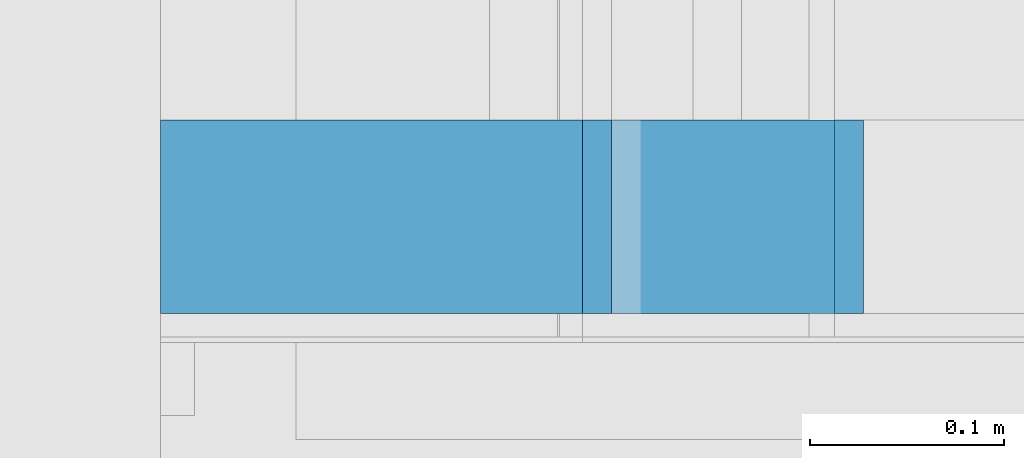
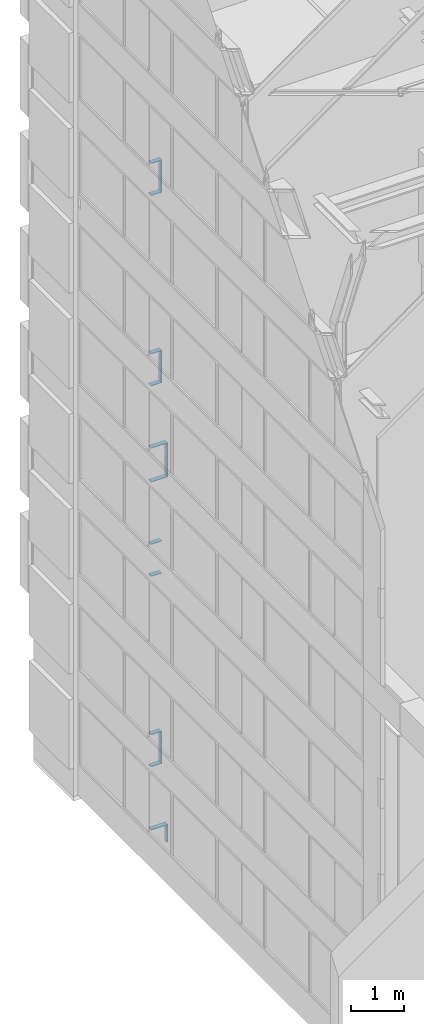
# One storey, part 206 of 583: 16 building element parts, 16 elements without a shape of their own.
"""IFC2X3 building model written with IfcOpenShell, lengths in metres."""

from ifc_helpers import new_model, entity, si_unit, converted_unit, derived_unit, money_unit, direction, frame, origin_with_axes, place, context, subcontext, project, spatial, polyline, outline, extrude, material, type_object, element, aggregate, save


model = new_model("IFC2X3")

# Units and contexts
model_context = context("Model", 3, precision=1e-05, world=origin_with_axes(), true_north=direction((0.0, 1.0)))
body_context = subcontext(model_context, "Body", "Model", "MODEL_VIEW", scale=1.0)
ifc_project = project(units=[si_unit("LENGTHUNIT", "METRE"), si_unit("AREAUNIT", "SQUARE_METRE"), si_unit("VOLUMEUNIT", "CUBIC_METRE"), si_unit("ABSORBEDDOSEUNIT", "GRAY"), si_unit("AMOUNTOFSUBSTANCEUNIT", "MOLE"), si_unit("DOSEEQUIVALENTUNIT", "SIEVERT"), si_unit("ELECTRICCAPACITANCEUNIT", "FARAD"), si_unit("ELECTRICCHARGEUNIT", "COULOMB"), si_unit("ELECTRICCONDUCTANCEUNIT", "SIEMENS"), si_unit("ELECTRICCURRENTUNIT", "AMPERE"), si_unit("ELECTRICRESISTANCEUNIT", "OHM"), si_unit("ELECTRICVOLTAGEUNIT", "VOLT"), si_unit("ENERGYUNIT", "JOULE"), si_unit("FORCEUNIT", "NEWTON"), si_unit("FREQUENCYUNIT", "HERTZ"), si_unit("ILLUMINANCEUNIT", "LUX"), si_unit("INDUCTANCEUNIT", "HENRY"), si_unit("LUMINOUSFLUXUNIT", "LUMEN"), si_unit("LUMINOUSINTENSITYUNIT", "CANDELA"), si_unit("MAGNETICFLUXDENSITYUNIT", "TESLA"), si_unit("MAGNETICFLUXUNIT", "WEBER"), si_unit("MASSUNIT", "GRAM"), converted_unit("PLANEANGLEUNIT", "degree", entity("IfcReal", 0.0174532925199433), si_unit("PLANEANGLEUNIT", "RADIAN"), dimensions=[0, 0, 0, 0, 0, 0, 0]), si_unit("POWERUNIT", "WATT"), si_unit("PRESSUREUNIT", "PASCAL"), si_unit("RADIOACTIVITYUNIT", "BECQUEREL"), si_unit("SOLIDANGLEUNIT", "STERADIAN"), si_unit("THERMODYNAMICTEMPERATUREUNIT", "KELVIN"), si_unit("TIMEUNIT", "SECOND"), derived_unit("ACCELERATIONUNIT", [(si_unit("LENGTHUNIT", "METRE"), 1), (si_unit("TIMEUNIT", "SECOND"), -2)]), derived_unit("ANGULARVELOCITYUNIT", [(converted_unit("PLANEANGLEUNIT", "degree", entity("IfcReal", 0.0174532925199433), si_unit("PLANEANGLEUNIT", "RADIAN"), dimensions=[0, 0, 0, 0, 0, 0, 0]), 1), (si_unit("TIMEUNIT", "SECOND"), -1)]), derived_unit("CURVATUREUNIT", [(converted_unit("PLANEANGLEUNIT", "degree", entity("IfcReal", 0.0174532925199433), si_unit("PLANEANGLEUNIT", "RADIAN"), dimensions=[0, 0, 0, 0, 0, 0, 0]), 1), (si_unit("LENGTHUNIT", "METRE"), -1)]), derived_unit("DYNAMICVISCOSITYUNIT", [(si_unit("PRESSUREUNIT", "PASCAL"), 1), (si_unit("TIMEUNIT", "SECOND"), 1)]), derived_unit("HEATFLUXDENSITYUNIT", [(si_unit("POWERUNIT", "WATT"), 1), (si_unit("LENGTHUNIT", "METRE"), -2)]), derived_unit("HEATINGVALUEUNIT", [(si_unit("ENERGYUNIT", "JOULE"), 1), (si_unit("MASSUNIT", "GRAM"), -1)]), derived_unit("INTEGERCOUNTRATEUNIT", [(si_unit("TIMEUNIT", "SECOND"), -1)]), derived_unit("IONCONCENTRATIONUNIT", [(si_unit("MASSUNIT", "GRAM"), 1), (si_unit("VOLUMEUNIT", "CUBIC_METRE"), -1)]), derived_unit("ISOTHERMALMOISTURECAPACITYUNIT", [(si_unit("VOLUMEUNIT", "CUBIC_METRE"), 1), (si_unit("MASSUNIT", "GRAM"), -1)]), derived_unit("KINEMATICVISCOSITYUNIT", [(si_unit("AREAUNIT", "SQUARE_METRE"), 1), (si_unit("TIMEUNIT", "SECOND"), -1)]), derived_unit("LINEARFORCEUNIT", [(si_unit("FORCEUNIT", "NEWTON"), 1), (si_unit("LENGTHUNIT", "METRE"), -1)]), derived_unit("LINEARMOMENTUNIT", [(si_unit("FORCEUNIT", "NEWTON"), 1), (si_unit("LENGTHUNIT", "METRE"), -1)]), derived_unit("LINEARSTIFFNESSUNIT", [(si_unit("FORCEUNIT", "NEWTON"), 1), (si_unit("LENGTHUNIT", "METRE"), -1)]), derived_unit("LINEARVELOCITYUNIT", [(si_unit("LENGTHUNIT", "METRE"), 1), (si_unit("TIMEUNIT", "SECOND"), -1)]), derived_unit("LUMINOUSINTENSITYDISTRIBUTIONUNIT", [(si_unit("LUMINOUSINTENSITYUNIT", "CANDELA"), 1), (si_unit("LUMINOUSFLUXUNIT", "LUMEN"), -1)]), derived_unit("MASSDENSITYUNIT", [(si_unit("MASSUNIT", "GRAM"), 1), (si_unit("VOLUMEUNIT", "CUBIC_METRE"), -1)]), derived_unit("MASSFLOWRATEUNIT", [(si_unit("MASSUNIT", "GRAM"), 1), (si_unit("TIMEUNIT", "SECOND"), -1)]), derived_unit("MASSPERLENGTHUNIT", [(si_unit("MASSUNIT", "GRAM"), 1), (si_unit("LENGTHUNIT", "METRE"), -1)]), derived_unit("MODULUSOFELASTICITYUNIT", [(si_unit("FORCEUNIT", "NEWTON"), 1), (si_unit("AREAUNIT", "SQUARE_METRE"), -1)]), derived_unit("MODULUSOFLINEARSUBGRADEREACTIONUNIT", [(si_unit("FORCEUNIT", "NEWTON"), 1), (si_unit("LENGTHUNIT", "METRE"), -2)]), derived_unit("MODULUSOFROTATIONALSUBGRADEREACTIONUNIT", [(si_unit("FORCEUNIT", "NEWTON"), 1), (si_unit("LENGTHUNIT", "METRE"), 1)]), derived_unit("MODULUSOFSUBGRADEREACTIONUNIT", [(si_unit("FORCEUNIT", "NEWTON"), 1), (si_unit("VOLUMEUNIT", "CUBIC_METRE"), -1)]), derived_unit("MOISTUREDIFFUSIVITYUNIT", [(si_unit("VOLUMEUNIT", "CUBIC_METRE"), 1), (si_unit("TIMEUNIT", "SECOND"), -1)]), derived_unit("MOLECULARWEIGHTUNIT", [(si_unit("MASSUNIT", "GRAM"), 1), (si_unit("AMOUNTOFSUBSTANCEUNIT", "MOLE"), -1)]), derived_unit("PLANARFORCEUNIT", [(si_unit("FORCEUNIT", "NEWTON"), 1), (si_unit("LENGTHUNIT", "METRE"), -2)]), derived_unit("ROTATIONALFREQUENCYUNIT", [(si_unit("TIMEUNIT", "SECOND"), -1)]), derived_unit("ROTATIONALMASSUNIT", [(si_unit("MASSUNIT", "GRAM"), 1), (si_unit("LENGTHUNIT", "METRE"), 2)]), derived_unit("ROTATIONALSTIFFNESSUNIT", [(si_unit("FORCEUNIT", "NEWTON"), 1), (si_unit("LENGTHUNIT", "METRE"), 1), (converted_unit("PLANEANGLEUNIT", "degree", entity("IfcReal", 0.0174532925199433), si_unit("PLANEANGLEUNIT", "RADIAN"), dimensions=[0, 0, 0, 0, 0, 0, 0]), -1)]), derived_unit("SECTIONAREAINTEGRALUNIT", [(si_unit("LENGTHUNIT", "METRE"), 5)]), derived_unit("SECTIONMODULUSUNIT", [(si_unit("LENGTHUNIT", "METRE"), 3)]), derived_unit("SHEARMODULUSUNIT", [(si_unit("FORCEUNIT", "NEWTON"), 1), (si_unit("AREAUNIT", "SQUARE_METRE"), -1)]), derived_unit("SOUNDPOWERUNIT", [(si_unit("ENERGYUNIT", "JOULE"), 1), (si_unit("TIMEUNIT", "SECOND"), -1)]), derived_unit("SPECIFICHEATCAPACITYUNIT", [(si_unit("FORCEUNIT", "NEWTON"), 1), (si_unit("MASSUNIT", "GRAM"), -1), (si_unit("THERMODYNAMICTEMPERATUREUNIT", "KELVIN"), -1)]), derived_unit("TEMPERATUREGRADIENTUNIT", [(si_unit("THERMODYNAMICTEMPERATUREUNIT", "KELVIN"), 1), (si_unit("LENGTHUNIT", "METRE"), -1)]), derived_unit("THERMALADMITTANCEUNIT", [(si_unit("POWERUNIT", "WATT"), 1), (si_unit("AREAUNIT", "SQUARE_METRE"), -1), (si_unit("THERMODYNAMICTEMPERATUREUNIT", "KELVIN"), -1)]), derived_unit("THERMALCONDUCTANCEUNIT", [(si_unit("POWERUNIT", "WATT"), 1), (si_unit("LENGTHUNIT", "METRE"), -1), (si_unit("THERMODYNAMICTEMPERATUREUNIT", "KELVIN"), -1)]), derived_unit("THERMALEXPANSIONCOEFFICIENTUNIT", [(si_unit("THERMODYNAMICTEMPERATUREUNIT", "KELVIN"), -1)]), derived_unit("THERMALRESISTANCEUNIT", [(si_unit("AREAUNIT", "SQUARE_METRE"), 1), (si_unit("POWERUNIT", "WATT"), -1)]), derived_unit("THERMALTRANSMITTANCEUNIT", [(si_unit("POWERUNIT", "WATT"), 1), (si_unit("AREAUNIT", "SQUARE_METRE"), -1), (si_unit("THERMODYNAMICTEMPERATUREUNIT", "KELVIN"), -1)]), derived_unit("TORQUEUNIT", [(si_unit("FORCEUNIT", "NEWTON"), 1), (si_unit("LENGTHUNIT", "METRE"), 1)]), derived_unit("VAPORPERMEABILITYUNIT", [(si_unit("MASSUNIT", "GRAM"), 1), (si_unit("TIMEUNIT", "SECOND"), -1)]), derived_unit("VOLUMETRICFLOWRATEUNIT", [(si_unit("VOLUMEUNIT", "CUBIC_METRE"), 1), (si_unit("TIMEUNIT", "SECOND"), -1)]), derived_unit("WARPINGCONSTANTUNIT", [(si_unit("LENGTHUNIT", "METRE"), 6)]), derived_unit("WARPINGMOMENTUNIT", [(si_unit("FORCEUNIT", "NEWTON"), 1), (si_unit("LENGTHUNIT", "METRE"), 2)]), money_unit("GBP")], contexts=[model_context])

# Site, building, storey
site_placement = place(None, origin_with_axes())
site = spatial("IfcSite", under=ifc_project, at=site_placement, Name="Site", CompositionType="ELEMENT")
building_placement = place(site_placement, origin_with_axes())
building = spatial("IfcBuilding", under=site, at=building_placement, Name="Building01", CompositionType="ELEMENT")
storey_placement = place(building_placement, frame((0.0, 0.0, 20.78), z_axis=(0.0, 0.0, 1.0), x_axis=(1.0, 0.0, 0.0)))
storey = spatial("IfcBuildingStorey", under=building, at=storey_placement, Name="RL", CompositionType="ELEMENT", Elevation=20.78)

# Wall, building element part
wall_type = type_object("IfcWallType", Name="SHE_A-Walls_Type06d_ExternalWallInsulation_48mm", PredefinedType="NOTDEFINED")
wall_1_placement = place(storey_placement, frame((0.4, 12.13, -20.51), z_axis=(0.0, 1.0, 0.0), x_axis=(0.0, 0.0, 1.0)))
wall_1 = element("IfcWall", 1, at=wall_1_placement, inside=storey, type_object=wall_type, Name="6D", ObjectType="SHE_A-Walls_Type06d_ExternalWallInsulation_48mm")
ifc_material = material(Name="A_BSUK_Walls_Timber")
building_element_part_1_placement = place(wall_1_placement, origin_with_axes())
building_element_part_1 = element("IfcBuildingElementPart", 2, at=building_element_part_1_placement, material=ifc_material, Name="2", context=body_context, shape_type="SweptSolid", body=[
    extrude(outline(polyline([(0.47, 0.063), (0.063, 0.063), (0.048, 0.048), (0.455, 0.048), (0.47, 0.063)])), frame((0.0, 0.0, 0.015), z_axis=(0.0, 0.0, 1.0), x_axis=(1.0, 0.0, 0.0)), (0.0, 0.0, 1.0), 0.1),
])
aggregate(wall_1, [building_element_part_1])

wall_2_placement = place(storey_placement, frame((0.4, 12.13, -20.103), z_axis=(0.0, 1.0, 0.0), x_axis=(-1.0, 0.0, 0.0)))
wall_2 = element("IfcWall", 3, at=wall_2_placement, inside=storey, type_object=wall_type, Name="6D", ObjectType="SHE_A-Walls_Type06d_ExternalWallInsulation_48mm")
building_element_part_2_placement = place(wall_2_placement, origin_with_axes())
building_element_part_2 = element("IfcBuildingElementPart", 4, at=building_element_part_2_placement, material=ifc_material, Name="2", context=body_context, shape_type="SweptSolid", body=[
    extrude(outline(polyline([(-0.063, 0.063), (-0.048, 0.048), (0.3, 0.048), (0.3, 0.063), (-0.063, 0.063)])), frame((0.0, 0.0, 0.015), z_axis=(0.0, 0.0, 1.0), x_axis=(1.0, 0.0, 0.0)), (0.0, 0.0, 1.0), 0.1),
])
aggregate(wall_2, [building_element_part_2])

wall_3_placement = place(storey_placement, frame((0.1, 12.13, -18.537), z_axis=(0.0, 1.0, 0.0), x_axis=(1.0, 0.0, 0.0)))
wall_3 = element("IfcWall", 5, at=wall_3_placement, inside=storey, type_object=wall_type, Name="6D", ObjectType="SHE_A-Walls_Type06d_ExternalWallInsulation_48mm")
building_element_part_3_placement = place(wall_3_placement, origin_with_axes())
building_element_part_3 = element("IfcBuildingElementPart", 6, at=building_element_part_3_placement, material=ifc_material, Name="2", context=body_context, shape_type="SweptSolid", body=[
    extrude(outline(polyline([(0.233, 0.063), (0.0, 0.063), (0.0, 0.048), (0.218, 0.048), (0.233, 0.063)])), frame((0.0, 0.0, 0.015), z_axis=(0.0, 0.0, 1.0), x_axis=(1.0, 0.0, 0.0)), (0.0, 0.0, 1.0), 0.1),
])
aggregate(wall_3, [building_element_part_3])

wall_4_placement = place(storey_placement, frame((0.27, 12.13, -18.537), z_axis=(0.0, 1.0, 0.0), x_axis=(0.0, 0.0, 1.0)))
wall_4 = element("IfcWall", 7, at=wall_4_placement, inside=storey, type_object=wall_type, Name="6D", ObjectType="SHE_A-Walls_Type06d_ExternalWallInsulation_48mm")
building_element_part_4_placement = place(wall_4_placement, origin_with_axes())
building_element_part_4 = element("IfcBuildingElementPart", 8, at=building_element_part_4_placement, material=ifc_material, Name="2", context=body_context, shape_type="SweptSolid", body=[
    extrude(outline(polyline([(0.687, 0.063), (-0.063, 0.063), (-0.048, 0.048), (0.672, 0.048), (0.687, 0.063)])), frame((0.0, 0.0, 0.015), z_axis=(0.0, 0.0, 1.0), x_axis=(1.0, 0.0, 0.0)), (0.0, 0.0, 1.0), 0.1),
])
aggregate(wall_4, [building_element_part_4])

wall_5_placement = place(storey_placement, frame((0.27, 12.13, -17.913), z_axis=(0.0, 1.0, 0.0), x_axis=(-1.0, 0.0, 0.0)))
wall_5 = element("IfcWall", 9, at=wall_5_placement, inside=storey, type_object=wall_type, Name="6D", ObjectType="SHE_A-Walls_Type06d_ExternalWallInsulation_48mm")
building_element_part_5_placement = place(wall_5_placement, origin_with_axes())
building_element_part_5 = element("IfcBuildingElementPart", 10, at=building_element_part_5_placement, material=ifc_material, Name="2", context=body_context, shape_type="SweptSolid", body=[
    extrude(outline(polyline([(-0.063, 0.063), (-0.048, 0.048), (0.17, 0.048), (0.17, 0.063), (-0.063, 0.063)])), frame((0.0, 0.0, 0.015), z_axis=(0.0, 0.0, 1.0), x_axis=(1.0, 0.0, 0.0)), (0.0, 0.0, 1.0), 0.1),
])
aggregate(wall_5, [building_element_part_5])

wall_6_placement = place(storey_placement, frame((0.1, 12.13, -14.157), z_axis=(0.0, 1.0, 0.0), x_axis=(1.0, 0.0, 0.0)))
wall_6 = element("IfcWall", 11, at=wall_6_placement, inside=storey, type_object=wall_type, Name="6D", ObjectType="SHE_A-Walls_Type06d_ExternalWallInsulation_48mm")
building_element_part_6_placement = place(wall_6_placement, origin_with_axes())
building_element_part_6 = element("IfcBuildingElementPart", 12, at=building_element_part_6_placement, material=ifc_material, Name="2", context=body_context, shape_type="SweptSolid", body=[
    extrude(outline(polyline([(0.233, 0.063), (0.0, 0.063), (0.0, 0.048), (0.218, 0.048), (0.233, 0.063)])), frame((0.0, 0.0, 0.015), z_axis=(0.0, 0.0, 1.0), x_axis=(1.0, 0.0, 0.0)), (0.0, 0.0, 1.0), 0.1),
])
aggregate(wall_6, [building_element_part_6])

wall_7_placement = place(storey_placement, frame((0.27, 12.13, -13.533), z_axis=(0.0, 1.0, 0.0), x_axis=(-1.0, 0.0, 0.0)))
wall_7 = element("IfcWall", 13, at=wall_7_placement, inside=storey, type_object=wall_type, Name="6D", ObjectType="SHE_A-Walls_Type06d_ExternalWallInsulation_48mm")
building_element_part_7_placement = place(wall_7_placement, origin_with_axes())
building_element_part_7 = element("IfcBuildingElementPart", 14, at=building_element_part_7_placement, material=ifc_material, Name="2", context=body_context, shape_type="SweptSolid", body=[
    extrude(outline(polyline([(-0.063, 0.063), (-0.048, 0.048), (0.17, 0.048), (0.17, 0.063), (-0.063, 0.063)])), frame((0.0, 0.0, 0.015), z_axis=(0.0, 0.0, 1.0), x_axis=(1.0, 0.0, 0.0)), (0.0, 0.0, 1.0), 0.1),
])
aggregate(wall_7, [building_element_part_7])

wall_8_placement = place(storey_placement, frame((0.1, 12.13, -11.99), z_axis=(0.0, 1.0, 0.0), x_axis=(1.0, 0.0, 0.0)))
wall_8 = element("IfcWall", 15, at=wall_8_placement, inside=storey, type_object=wall_type, Name="6D", ObjectType="SHE_A-Walls_Type06d_ExternalWallInsulation_48mm")
building_element_part_8_placement = place(wall_8_placement, origin_with_axes())
building_element_part_8 = element("IfcBuildingElementPart", 16, at=building_element_part_8_placement, material=ifc_material, Name="2", context=body_context, shape_type="SweptSolid", body=[
    extrude(outline(polyline([(0.363, 0.063), (0.0, 0.063), (0.0, 0.048), (0.348, 0.048), (0.363, 0.063)])), frame((0.0, 0.0, 0.015), z_axis=(0.0, 0.0, 1.0), x_axis=(1.0, 0.0, 0.0)), (0.0, 0.0, 1.0), 0.1),
])
aggregate(wall_8, [building_element_part_8])

wall_9_placement = place(storey_placement, frame((0.4, 12.13, -11.99), z_axis=(0.0, 1.0, 0.0), x_axis=(0.0, 0.0, 1.0)))
wall_9 = element("IfcWall", 17, at=wall_9_placement, inside=storey, type_object=wall_type, Name="6D", ObjectType="SHE_A-Walls_Type06d_ExternalWallInsulation_48mm")
building_element_part_9_placement = place(wall_9_placement, origin_with_axes())
building_element_part_9 = element("IfcBuildingElementPart", 18, at=building_element_part_9_placement, material=ifc_material, Name="2", context=body_context, shape_type="SweptSolid", body=[
    extrude(outline(polyline([(0.733, 0.063), (-0.063, 0.063), (-0.048, 0.048), (0.718, 0.048), (0.733, 0.063)])), frame((0.0, 0.0, 0.015), z_axis=(0.0, 0.0, 1.0), x_axis=(1.0, 0.0, 0.0)), (0.0, 0.0, 1.0), 0.1),
])
aggregate(wall_9, [building_element_part_9])

wall_10_placement = place(storey_placement, frame((0.4, 12.13, -11.32), z_axis=(0.0, 1.0, 0.0), x_axis=(-1.0, 0.0, 0.0)))
wall_10 = element("IfcWall", 19, at=wall_10_placement, inside=storey, type_object=wall_type, Name="6D", ObjectType="SHE_A-Walls_Type06d_ExternalWallInsulation_48mm")
building_element_part_10_placement = place(wall_10_placement, origin_with_axes())
building_element_part_10 = element("IfcBuildingElementPart", 20, at=building_element_part_10_placement, material=ifc_material, Name="2", context=body_context, shape_type="SweptSolid", body=[
    extrude(outline(polyline([(-0.063, 0.063), (-0.048, 0.048), (0.3, 0.048), (0.3, 0.063), (-0.063, 0.063)])), frame((0.0, 0.0, 0.015), z_axis=(0.0, 0.0, 1.0), x_axis=(1.0, 0.0, 0.0)), (0.0, 0.0, 1.0), 0.1),
])
aggregate(wall_10, [building_element_part_10])

wall_11_placement = place(storey_placement, frame((0.1, 12.13, -9.777), z_axis=(0.0, 1.0, 0.0), x_axis=(1.0, 0.0, 0.0)))
wall_11 = element("IfcWall", 21, at=wall_11_placement, inside=storey, type_object=wall_type, Name="6D", ObjectType="SHE_A-Walls_Type06d_ExternalWallInsulation_48mm")
building_element_part_11_placement = place(wall_11_placement, origin_with_axes())
building_element_part_11 = element("IfcBuildingElementPart", 22, at=building_element_part_11_placement, material=ifc_material, Name="2", context=body_context, shape_type="SweptSolid", body=[
    extrude(outline(polyline([(0.233, 0.063), (0.0, 0.063), (0.0, 0.048), (0.218, 0.048), (0.233, 0.063)])), frame((0.0, 0.0, 0.015), z_axis=(0.0, 0.0, 1.0), x_axis=(1.0, 0.0, 0.0)), (0.0, 0.0, 1.0), 0.1),
])
aggregate(wall_11, [building_element_part_11])

wall_12_placement = place(storey_placement, frame((0.27, 12.13, -9.777), z_axis=(0.0, 1.0, 0.0), x_axis=(0.0, 0.0, 1.0)))
wall_12 = element("IfcWall", 23, at=wall_12_placement, inside=storey, type_object=wall_type, Name="6D", ObjectType="SHE_A-Walls_Type06d_ExternalWallInsulation_48mm")
building_element_part_12_placement = place(wall_12_placement, origin_with_axes())
building_element_part_12 = element("IfcBuildingElementPart", 24, at=building_element_part_12_placement, material=ifc_material, Name="2", context=body_context, shape_type="SweptSolid", body=[
    extrude(outline(polyline([(0.687, 0.063), (-0.063, 0.063), (-0.048, 0.048), (0.672, 0.048), (0.687, 0.063)])), frame((0.0, 0.0, 0.015), z_axis=(0.0, 0.0, 1.0), x_axis=(1.0, 0.0, 0.0)), (0.0, 0.0, 1.0), 0.1),
])
aggregate(wall_12, [building_element_part_12])

wall_13_placement = place(storey_placement, frame((0.27, 12.13, -9.153), z_axis=(0.0, 1.0, 0.0), x_axis=(-1.0, 0.0, 0.0)))
wall_13 = element("IfcWall", 25, at=wall_13_placement, inside=storey, type_object=wall_type, Name="6D", ObjectType="SHE_A-Walls_Type06d_ExternalWallInsulation_48mm")
building_element_part_13_placement = place(wall_13_placement, origin_with_axes())
building_element_part_13 = element("IfcBuildingElementPart", 26, at=building_element_part_13_placement, material=ifc_material, Name="2", context=body_context, shape_type="SweptSolid", body=[
    extrude(outline(polyline([(-0.063, 0.063), (-0.048, 0.048), (0.17, 0.048), (0.17, 0.063), (-0.063, 0.063)])), frame((0.0, 0.0, 0.015), z_axis=(0.0, 0.0, 1.0), x_axis=(1.0, 0.0, 0.0)), (0.0, 0.0, 1.0), 0.1),
])
aggregate(wall_13, [building_element_part_13])

wall_14_placement = place(storey_placement, frame((0.1, 12.13, -5.397), z_axis=(0.0, 1.0, 0.0), x_axis=(1.0, 0.0, 0.0)))
wall_14 = element("IfcWall", 27, at=wall_14_placement, inside=storey, type_object=wall_type, Name="6D", ObjectType="SHE_A-Walls_Type06d_ExternalWallInsulation_48mm")
building_element_part_14_placement = place(wall_14_placement, origin_with_axes())
building_element_part_14 = element("IfcBuildingElementPart", 28, at=building_element_part_14_placement, material=ifc_material, Name="2", context=body_context, shape_type="SweptSolid", body=[
    extrude(outline(polyline([(0.233, 0.063), (0.0, 0.063), (0.0, 0.048), (0.218, 0.048), (0.233, 0.063)])), frame((0.0, 0.0, 0.015), z_axis=(0.0, 0.0, 1.0), x_axis=(1.0, 0.0, 0.0)), (0.0, 0.0, 1.0), 0.1),
])
aggregate(wall_14, [building_element_part_14])

wall_15_placement = place(storey_placement, frame((0.27, 12.13, -5.397), z_axis=(0.0, 1.0, 0.0), x_axis=(0.0, 0.0, 1.0)))
wall_15 = element("IfcWall", 29, at=wall_15_placement, inside=storey, type_object=wall_type, Name="6D", ObjectType="SHE_A-Walls_Type06d_ExternalWallInsulation_48mm")
building_element_part_15_placement = place(wall_15_placement, origin_with_axes())
building_element_part_15 = element("IfcBuildingElementPart", 30, at=building_element_part_15_placement, material=ifc_material, Name="2", context=body_context, shape_type="SweptSolid", body=[
    extrude(outline(polyline([(0.687, 0.063), (-0.063, 0.063), (-0.048, 0.048), (0.672, 0.048), (0.687, 0.063)])), frame((0.0, 0.0, 0.015), z_axis=(0.0, 0.0, 1.0), x_axis=(1.0, 0.0, 0.0)), (0.0, 0.0, 1.0), 0.1),
])
aggregate(wall_15, [building_element_part_15])

wall_16_placement = place(storey_placement, frame((0.27, 12.13, -4.773), z_axis=(0.0, 1.0, 0.0), x_axis=(-1.0, 0.0, 0.0)))
wall_16 = element("IfcWall", 31, at=wall_16_placement, inside=storey, type_object=wall_type, Name="6D", ObjectType="SHE_A-Walls_Type06d_ExternalWallInsulation_48mm")
building_element_part_16_placement = place(wall_16_placement, origin_with_axes())
building_element_part_16 = element("IfcBuildingElementPart", 32, at=building_element_part_16_placement, material=ifc_material, Name="2", context=body_context, shape_type="SweptSolid", body=[
    extrude(outline(polyline([(-0.063, 0.063), (-0.048, 0.048), (0.17, 0.048), (0.17, 0.063), (-0.063, 0.063)])), frame((0.0, 0.0, 0.015), z_axis=(0.0, 0.0, 1.0), x_axis=(1.0, 0.0, 0.0)), (0.0, 0.0, 1.0), 0.1),
])
aggregate(wall_16, [building_element_part_16])

save(model, "model.ifc")
